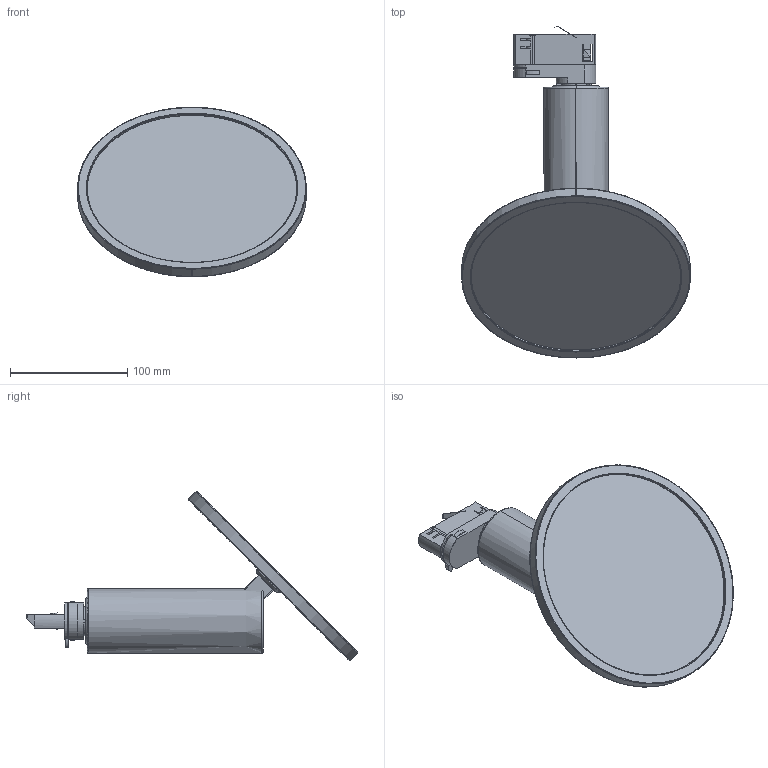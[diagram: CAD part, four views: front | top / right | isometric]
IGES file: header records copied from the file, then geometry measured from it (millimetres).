
Start section: SolidWorks IGES file using analytic representation for surfaces
Global section: file name: C:\Users\danielet\Desktop\ISMAIL\TERMINADOS\MORGAN-T384610-3D\MORGAN-T384610-3D.IGS; native system: SolidWorks 2018; preprocessor: SolidWorks 2018; author: danielet; date: 230329.090039; units: millimetre
Bounding box: 195 x 282.91 x 144.54 mm (x, y, z)
Surface area: 144716.4 mm2 (no closed solid volume)
Topology: 0 solids, 0 shells, 214 faces, 2627 edges, 2627 vertices
Faces by surface type: bspline 157, revolution 57
